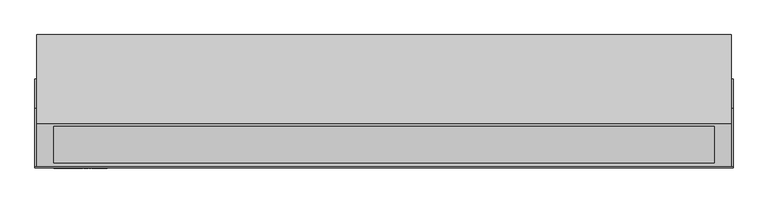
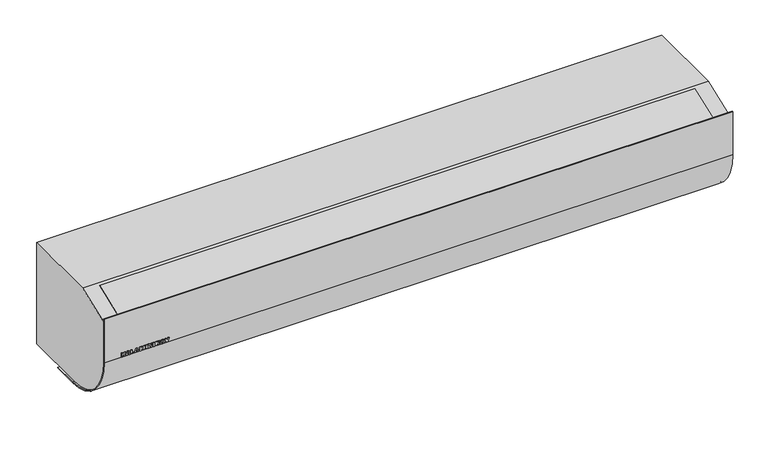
"""IFC4 building model written with IfcOpenShell, lengths in millimetres: proxy geometry, ИЗТТ_Завеса_Электрическая : KVC-C15E12-31."""

from ifc_helpers import new_model, si_unit, point, frame, frame_2d, origin, place, context, project, spatial, polyline, circle_curve, trimmed, segment, composite_curve, outline, extrude, source, transform, mapped, element, save
from ifc_brep_helpers import plane_surface, cylinder_surface, advanced_brep


def mechanical_equipment_d82694fb(model_context):
    return source(origin(), model_context, "Body", "SolidModel", [
        extrude(outline(polyline([(139.0, -709.0196078), (129.0, -709.0196078), (129.0, -705.8823529), (130.7647059, -705.8823529), (132.7745098, -704.1115196), (129.0, -702.2794118), (129.0, -698.4313725), (135.2775735, -701.9056373), (139.0, -698.627451), (139.0, -702.8982843), (135.2224265, -705.8823529), (139.0, -705.8823529), (139.0, -709.0196078)])), frame((0.0, -287.0, 0.0), z_axis=(0.0, 1.0, 0.0), x_axis=(0.0, 0.0, 1.0)), (0.0, 0.0, 1.0), 1.0),
        extrude(outline(polyline([(130.5686275, -691.4338235), (129.0, -690.9803922), (129.0, -687.6470588), (139.0, -691.0202206), (139.0, -695.0582108), (129.0, -698.4313725), (129.0, -695.0980392), (130.5686275, -694.6660539), (130.5686275, -691.4338235)]), holes=[polyline([(132.9215686, -692.0281863), (132.9215686, -694.0165441), (136.4540441, -693.0392157), (132.9215686, -692.0281863)])]), frame((0.0, -287.0, 0.0), z_axis=(0.0, 1.0, 0.0), x_axis=(0.0, 0.0, 1.0)), (0.0, 0.0, 1.0), 1.0),
        extrude(outline(polyline([(139.0, -686.6666667), (129.0, -686.6666667), (129.0, -678.8235294), (131.3529412, -678.8235294), (131.3529412, -683.5294118), (139.0, -683.5294118), (139.0, -686.6666667)])), frame((0.0, -287.0, 0.0), z_axis=(0.0, 1.0, 0.0), x_axis=(0.0, 0.0, 1.0)), (0.0, 0.0, 1.0), 1.0),
        extrude(outline(polyline([(130.5686275, -671.4338235), (129.0, -670.9803922), (129.0, -667.6470588), (139.0, -671.0202206), (139.0, -675.0582108), (129.0, -678.4313725), (129.0, -675.0980392), (130.5686275, -674.6660539), (130.5686275, -671.4338235)]), holes=[polyline([(132.9215686, -672.0281863), (132.9215686, -674.0165441), (136.4540441, -673.0392157), (132.9215686, -672.0281863)])]), frame((0.0, -287.0, 0.0), z_axis=(0.0, 1.0, 0.0), x_axis=(0.0, 0.0, 1.0)), (0.0, 0.0, 1.0), 1.0),
        extrude(outline(polyline([(132.3394608, -667.254902), (129.8026961, -666.1488971), (128.8039216, -662.6378676), (129.2297794, -660.2420343), (130.4813113, -658.7637868), (132.28125, -658.2352941), (133.7870711, -658.6305147), (134.9129902, -659.8958333), (135.8106618, -662.7757353), (137.4313725, -662.9074755), (137.1050858, -662.1338848), (136.0588235, -661.7647059), (136.2395833, -658.627451), (138.4883578, -659.8054534), (139.1960784, -662.6807598), (138.8039216, -665.1011029), (137.7285539, -666.4231005), (136.276348, -666.8627451), (134.3492647, -665.9957108), (133.1237745, -663.1219363), (131.8186275, -661.372549), (131.0818015, -661.6865809), (130.7647059, -662.5796569), (131.3958333, -663.7775735), (132.5294118, -664.1176471), (132.3394608, -667.254902)])), frame((0.0, -287.0, 0.0), z_axis=(0.0, 1.0, 0.0), x_axis=(0.0, 0.0, 1.0)), (0.0, 0.0, 1.0), 1.0),
        extrude(outline(polyline([(139.0, -656.6666667), (129.0, -656.6666667), (129.0, -653.5294118), (133.1176471, -653.5294118), (133.1176471, -650.1960784), (129.0, -650.1960784), (129.0, -647.0588235), (139.0, -647.0588235), (139.0, -650.1960784), (135.4705882, -650.1960784), (135.4705882, -653.5294118), (139.0, -653.5294118), (139.0, -656.6666667)])), frame((0.0, -287.0, 0.0), z_axis=(0.0, 1.0, 0.0), x_axis=(0.0, 0.0, 1.0)), (0.0, 0.0, 1.0), 1.0),
        extrude(outline(polyline([(139.0, -645.0980392), (129.0, -645.0980392), (129.0, -642.1568627), (134.4901961, -642.1568627), (129.0, -638.4313725), (129.0, -635.4901961), (139.0, -635.4901961), (139.0, -638.4313725), (133.4730392, -638.4313725), (139.0, -642.1783088), (139.0, -645.0980392)])), frame((0.0, -287.0, 0.0), z_axis=(0.0, 1.0, 0.0), x_axis=(0.0, 0.0, 1.0)), (0.0, 0.0, 1.0), 1.0),
        extrude(outline(polyline([(-630.1960784, -287.0), (-633.3333333, -287.0), (-633.3333333, -286.0), (-630.1960784, -286.0), (-630.1960784, -287.0)])), frame((0.0, 0.0, 129.0), z_axis=(0.0, 0.0, 1.0), x_axis=(1.0, 0.0, 0.0)), (0.0, 0.0, 1.0), 10.0),
        extrude(outline(polyline([(139.0, -628.0392157), (129.0, -628.0392157), (129.0, -624.9019608), (130.7647059, -624.9019608), (132.7745098, -623.1311275), (129.0, -621.2990196), (129.0, -617.4509804), (135.2775735, -620.9252451), (139.0, -617.6470588), (139.0, -621.9178922), (135.2224265, -624.9019608), (139.0, -624.9019608), (139.0, -628.0392157)])), frame((0.0, -287.0, 0.0), z_axis=(0.0, 1.0, 0.0), x_axis=(0.0, 0.0, 1.0)), (0.0, 0.0, 1.0), 1.0),
        extrude(outline(polyline([(133.9938725, -616.8627451), (131.0603554, -616.171875), (129.346201, -614.3688725), (128.8039216, -611.5594363), (129.4304534, -608.7729779), (131.1859681, -607.0618873), (134.0765931, -606.4705882), (137.8495711, -607.8247549), (139.1960784, -611.685049), (137.8250613, -615.4947917), (133.9938725, -616.8627451)]), holes=[polyline([(133.9938725, -613.7254902), (136.1813725, -613.1678922), (136.8431373, -611.6911765), (136.1920956, -610.1685049), (134.1286765, -609.6078431), (131.8048407, -610.145527), (131.1568627, -611.6636029), (131.8186275, -613.1709559), (133.9938725, -613.7254902)])]), frame((0.0, -287.0, 0.0), z_axis=(0.0, 1.0, 0.0), x_axis=(0.0, 0.0, 1.0)), (0.0, 0.0, 1.0), 1.0),
        extrude(outline(polyline([(139.0, -605.6862745), (129.0, -601.9699755), (129.0, -598.6397059), (139.0, -594.9019608), (139.0, -598.2352941), (131.8033088, -600.2941176), (139.0, -602.3560049), (139.0, -605.6862745)])), frame((0.0, -287.0, 0.0), z_axis=(0.0, 1.0, 0.0), x_axis=(0.0, 0.0, 1.0)), (0.0, 0.0, 1.0), 1.0),
        extrude(outline(polyline([(-19.2222222, 10.0), (-19.2222222, 0.0), (-34.4444444, 10.0), (-34.4444444, 0.0), (-49.6666667, 10.0), (-49.6666667, 0.0), (-64.8888889, 10.0), (-64.8888889, 0.0), (-80.1111111, 10.0), (-80.1111111, 0.0), (-95.2499831, 10.5360909), (-4.0, 10.5360909), (-4.0, 0.0), (-19.2222222, 10.0)])), frame((-710.0, 0.0, 0.0), z_axis=(1.0, 0.0, 0.0), x_axis=(0.0, 1.0, 0.0)), (0.0, 0.0, 1.0), 1420.0),
        advanced_brep(
        [(746.0, -190.6666667, 258.0), (746.0, -284.0, 223.0), (746.0, -284.0, 129.0), (746.0, -157.0, 2.0), (746.0, 0.0, 2.0), (746.0, 0.0, 258.0), (-746.0, -190.6666667, 258.0), (-746.0, 0.0, 258.0), (-746.0, 0.0, 2.0), (-746.0, -157.0, 2.0), (-746.0, -284.0, 129.0), (-746.0, -284.0, 223.0), (710.0, -4.0, 2.0), (-710.0, -4.0, 2.0), (-710.0, -95.3333333, 2.0), (710.0, -95.3333333, 2.0), (710.0, -4.0, 10.0), (710.0, -95.3333333, 10.0), (-710.0, -95.3333333, 10.0), (-710.0, -4.0, 10.0)],
        [
            (0, 1),
            (1, 2),
            (2, 3, circle_curve(frame((746.0, -157.0, 129.0), z_axis=(1.0, 0.0, 0.0), x_axis=(0.0, 1.0, 0.0)), 127.0)),
            (3, 4),
            (4, 5),
            (5, 0),
            (6, 7),
            (7, 8),
            (8, 9),
            (9, 10, circle_curve(frame((-746.0, -157.0, 129.0), z_axis=(-1.0, 0.0, 0.0), x_axis=(0.0, 1.0, 0.0)), 127.0)),
            (10, 11),
            (11, 6),
            (1, 11),
            (10, 2),
            (4, 8),
            (7, 5),
            (6, 0),
            (9, 3),
            (12, 13),
            (13, 14),
            (14, 15),
            (15, 12),
            (16, 17),
            (17, 18),
            (18, 19),
            (19, 16),
            (19, 13),
            (12, 16),
            (18, 14),
            (17, 15),
        ],
        [
            plane_surface(frame((746.0, -190.6666667, 258.0), z_axis=(1.0000000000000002, 0.0, 0.0), x_axis=(0.0, -0.9363291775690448, -0.3511234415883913))),
            plane_surface(frame((-746.0, -190.6666667, 258.0), z_axis=(-1.0000000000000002, 0.0, 0.0), x_axis=(0.0, 0.9363291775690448, 0.3511234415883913))),
            plane_surface(frame((746.0, -284.0, 223.0), z_axis=(0.0, -1.0, 0.0), x_axis=(-1.0, 0.0, 0.0))),
            plane_surface(frame((746.0, 0.0, 2.0), z_axis=(0.0, 1.0, 0.0), x_axis=(-1.0, 0.0, 0.0))),
            plane_surface(frame((746.0, 0.0, 258.0), z_axis=(0.0, 0.0, 1.0), x_axis=(-1.0, 0.0, 0.0))),
            cylinder_surface(frame((-746.0, -157.0, 129.0), z_axis=(1.0, 0.0, 0.0), x_axis=(0.0, 1.0, 0.0)), 127.0),
            plane_surface(frame((746.0, -157.0, 2.0), z_axis=(0.0, 0.0, -1.0), x_axis=(-1.0, 0.0, 0.0))),
            plane_surface(frame((746.0, -190.6666667, 258.0), z_axis=(0.0, -0.3511234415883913, 0.9363291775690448), x_axis=(-1.0, 0.0, 0.0))),
            plane_surface(frame((-710.0, -4.0, 10.0), z_axis=(0.0, 0.0, -1.0), x_axis=(-1.0, 0.0, 0.0))),
            plane_surface(frame((710.0, -4.0, 10.0), z_axis=(0.0, -1.0, 0.0), x_axis=(0.0, 0.0, -1.0))),
            plane_surface(frame((-710.0, -4.0, 10.0), z_axis=(1.0, 0.0, 0.0), x_axis=(0.0, 0.0, -1.0))),
            plane_surface(frame((-710.0, -95.3333333, 10.0), z_axis=(0.0, 1.0, 0.0), x_axis=(0.0, 0.0, -1.0))),
            plane_surface(frame((710.0, -95.3333333, 10.0), z_axis=(-1.0, 0.0, 0.0), x_axis=(0.0, 0.0, -1.0))),
        ],
        [
            (0, [[1, 2, 3, 4, 5, 6]]),
            (1, [[7, 8, 9, 10, 11, 12]]),
            (2, [[-2, 13, -11, 14]]),
            (3, [[-5, 15, -8, 16]]),
            (4, [[-6, -16, -7, 17]]),
            (5, [[-3, -14, -10, 18]]),
            (6, [[-4, -18, -9, -15], [19, 20, 21, 22]]),
            (7, [[-1, -17, -12, -13]]),
            (8, [[23, 24, 25, 26]]),
            (9, [[-26, 27, -19, 28]]),
            (10, [[-25, 29, -20, -27]]),
            (11, [[-24, 30, -21, -29]]),
            (12, [[-23, -28, -22, -30]]),
        ],
    ),
        extrude(outline(polyline([(0.0, -83.2824191), (0.0, 0.0), (1420.0, 0.0), (1420.0, -83.2824191), (0.0, -83.2824191)])), frame((710.0, -275.390912, 225.5666685), z_axis=(0.0, -0.3511234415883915, 0.9363291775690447), x_axis=(-1.0, 0.0, 0.0)), (0.0, 0.0, 1.0), 1.2392119),
        extrude(outline(composite_curve([segment(polyline([(-286.0, 238.0), (-284.0, 238.0), (-284.0, 129.0)]), True, "CONTINUOUS"), segment(trimmed(circle_curve(frame_2d((-157.0, 129.0)), 127.0), [point((-284.0, 129.0))], [point((-157.0, 2.0))], True, "CARTESIAN"), True, "CONTINUOUS"), segment(polyline([(-157.0, 2.0), (-95.3333333, 2.0), (-95.3333333, 0.0), (-157.0, 0.0)]), True, "CONTINUOUS"), segment(trimmed(circle_curve(frame_2d((-157.0, 129.0)), 129.0), [point((-157.0, 0.0))], [point((-286.0, 129.0))], False, "CARTESIAN"), True, "CONTINUOUS"), segment(polyline([(-286.0, 129.0), (-286.0, 238.0)]), True, "CONTINUOUS")], self_intersect=False)), frame((-750.0, 0.0, 0.0), z_axis=(1.0, 0.0, 0.0), x_axis=(0.0, 1.0, 0.0)), (0.0, 0.0, 1.0), 1500.0),
    ])


if __name__ == "__main__":
    model = new_model("IFC4")
    model_context = context("Model", 3, world=origin())
    ifc_project = project(units=[si_unit("LENGTHUNIT", "METRE", prefix="MILLI")], contexts=[model_context])
    site = spatial("IfcSite", under=ifc_project)
    building = spatial("IfcBuilding", under=site)
    placement = place(None, origin())
    mechanical_equipment_shape = mechanical_equipment_d82694fb(model_context)
    element("IfcBuildingElementProxy", 1, Name="ИЗТТ_Завеса_Электрическая : KVC-C15E12-31", ObjectType="ИЗТТ_Завеса_Электрическая : KVC-C15E12-31", at=placement, inside=building, context=model_context, shape_type="MappedRepresentation", body=[
        mapped(mechanical_equipment_shape, transform((0.0, 0.0, 0.0), x_axis=(1.0, 0.0, 0.0), y_axis=(0.0, 1.0, 0.0), z_axis=(0.0, 0.0, 1.0))),
    ])
    save(model, "model.ifc")
